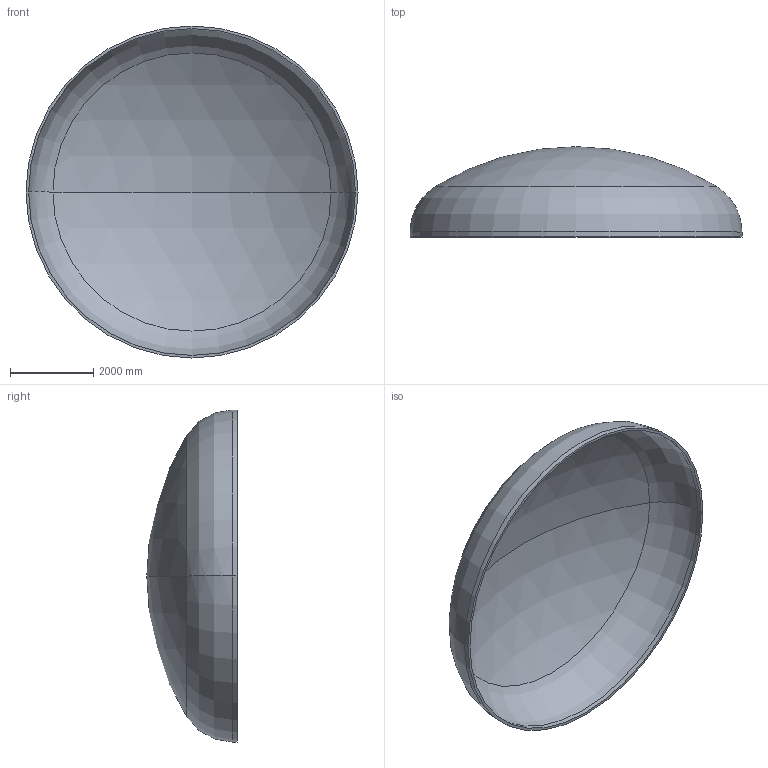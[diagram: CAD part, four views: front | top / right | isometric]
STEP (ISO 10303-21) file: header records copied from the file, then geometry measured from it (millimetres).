
FILE_DESCRIPTION (( 'STEP AP203' ), '1' );
FILE_NAME ('DIN 28013 Korbbogenform_-_Boden DIN 28013 - 8000 x 120 - I - s=62.step', '2016-07-04T11:03:01', ( '' ), ( '' ), 'SwSTEP 2.0', 'SolidWorks 2013', '' );
FILE_SCHEMA (( 'CONFIG_CONTROL_DESIGN' ));
Length unit declared in the file: millimetre
Products named in the file (1): DIN 28013 Korbbogenform_-_Boden DIN 28013 - 8000 x 120 - I - s=62
Bounding box: 8000 x 2177.95 x 8000 mm (x, y, z)
Volume: 4456459930.2 mm3; surface area: 145310920.2 mm2
Topology: 1 solids, 1 shells, 13 faces, 24 edges, 14 vertices
Faces by surface type: torus 4, cylinder 4, sphere 4, plane 1
Entity records: 407 total; most frequent: DIRECTION 72, CARTESIAN_POINT 52, ORIENTED_EDGE 48, AXIS2_PLACEMENT_3D 34, EDGE_CURVE 24, CIRCLE 20, EDGE_LOOP 14, VERTEX_POINT 14
